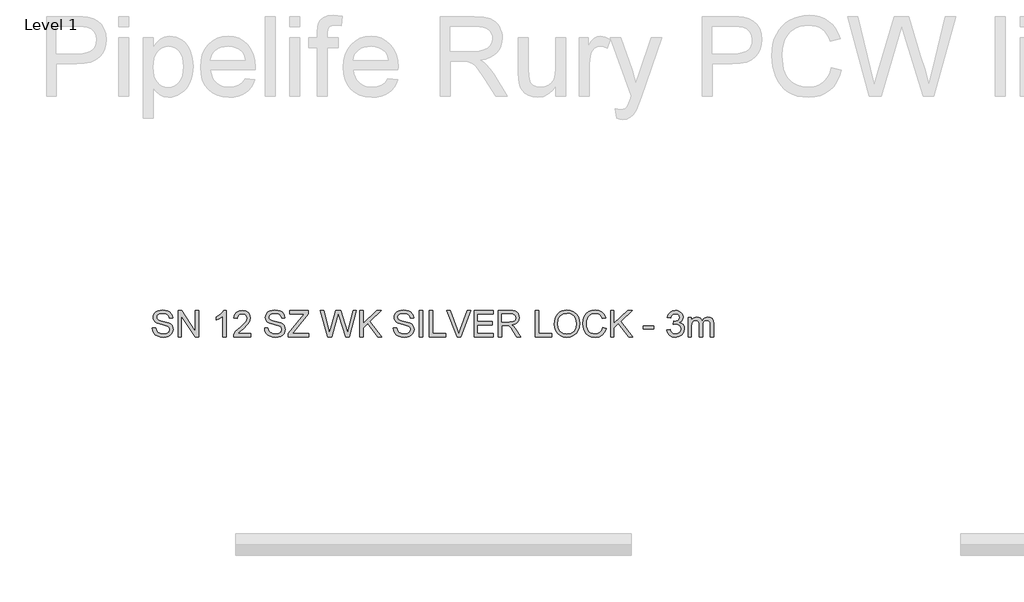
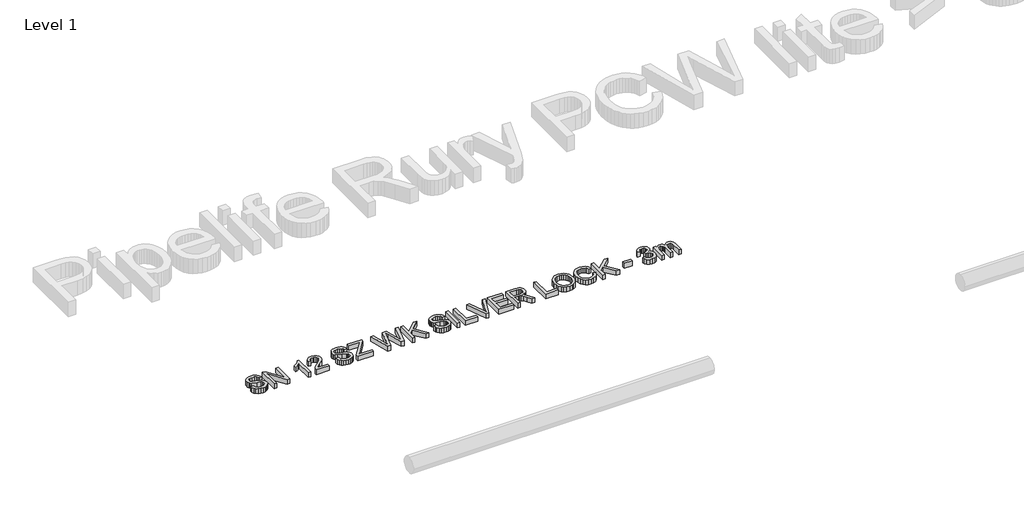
# One storey, part 3 of 8: 1 proxy.
"""IFC4 building model written with IfcOpenShell, lengths in millimetres."""

from ifc_helpers import new_model, si_unit, origin, origin_with_axes, place, context, project, spatial, polyline, outline, extrude, element, save

model = new_model("IFC4")

# Units and contexts
model_context = context("Model", 3, world=origin())
ifc_project = project(units=[si_unit("LENGTHUNIT", "METRE", prefix="MILLI")], contexts=[model_context])

# Site, building, storey
site = spatial("IfcSite", under=ifc_project)
building = spatial("IfcBuilding", under=site)
storey = spatial("IfcBuildingStorey", under=building, Name="Level 1", Elevation=0.0)

# Proxy
placement = place(None, origin())
element("IfcBuildingElementProxy", 1, Name="200mm Arial", ObjectType="200mm Arial", at=placement, inside=storey, context=model_context, shape_type="SweptSolid", body=[
    extrude(outline(polyline([(-16164.2244562, -12468.9871574), (-16139.1103787, -12468.9871574), (-16131.0169748, -12494.1257604), (-16122.8867827, -12503.016242), (-16111.2494489, -12510.0182626), (-16097.0246784, -12514.5616053), (-16081.1321762, -12516.0760528), (-16054.8899272, -12511.4897906), (-16037.94283, -12498.8837009), (-16032.3755491, -12482.0347055), (-16036.5448784, -12466.3629325), (-16042.8969742, -12460.1641209), (-16053.614603, -12454.9585907), (-16090.1820733, -12445.3691333), (-16129.5454468, -12432.9837728), (-16142.0473033, -12424.5347497), (-16150.907128, -12414.2953675), (-16156.1862346, -12402.4863554), (-16157.9459368, -12389.3284427), (-16155.7693017, -12374.6192943), (-16149.2393963, -12360.9034272), (-16138.5278988, -12349.2783562), (-16123.8064877, -12340.8415958), (-16106.1358892, -12335.7096419), (-16086.5768298, -12333.9989907), (-16065.3868268, -12335.7893497), (-16046.8455743, -12341.1604268), (-16031.6152597, -12350.0018575), (-16020.3580706, -12362.203277), (-16013.2334226, -12377.0043959), (-16010.4007313, -12393.6449248), (-16035.5148088, -12393.6449248), (-16040.1255965, -12378.6598649), (-16049.7395793, -12367.8441342), (-16064.7614274, -12361.2958347), (-16085.5958111, -12359.1130682), (-16106.9207041, -12361.2713092), (-16121.5501448, -12367.7460324), (-16130.0114307, -12377.274176), (-16132.8318593, -12388.5926788), (-16130.8330338, -12398.2434498), (-16124.8365573, -12406.0057599), (-16110.6608377, -12412.9464668), (-16083.8299775, -12420.0343266), (-16039.3898325, -12432.6404163), (-16025.0730915, -12441.7516271), (-16015.0850954, -12452.9965534), (-16009.2173775, -12466.2525679), (-16007.2614716, -12481.3970434), (-16009.5116831, -12496.878744), (-16016.2623177, -12511.4407397), (-16027.2374639, -12523.973253), (-16042.1612102, -12533.3665066), (-16060.1077202, -12539.2342244), (-16080.1511576, -12541.1901304), (-16104.7563317, -12539.0809402), (-16125.0082355, -12532.7533699), (-16141.139861, -12522.1828939), (-16153.3842001, -12507.3449868), (-16161.244612, -12489.2697181), (-16164.2244562, -12468.9871574)])), origin_with_axes(), (0.0, 0.0, 1.0), 50.0),
    extrude(outline(polyline([(-15969.5903553, -12538.0508707), (-15969.5903553, -12337.1382504), (-15942.7104442, -12337.1382504), (-15837.7414482, -12496.3085269), (-15837.7414482, -12337.1382504), (-15812.6273707, -12337.1382504), (-15812.6273707, -12538.0508707), (-15839.5072818, -12538.0508707), (-15944.4762778, -12378.8315431), (-15944.4762778, -12538.0508707), (-15969.5903553, -12538.0508707)])), origin_with_axes(), (0.0, 0.0, 1.0), 50.0),
    extrude(outline(polyline([(-15605.436231, -12538.0508707), (-15630.5503085, -12538.0508707), (-15630.5503085, -12381.4802935), (-15654.3400109, -12398.4273908), (-15680.7784636, -12411.1070569), (-15680.7784636, -12387.3664054), (-15643.9657386, -12363.8710087), (-15630.4951262, -12350.2961631), (-15621.6230388, -12337.1382504), (-15605.436231, -12337.1382504), (-15605.436231, -12538.0508707)])), origin_with_axes(), (0.0, 0.0, 1.0), 50.0),
    extrude(outline(polyline([(-15417.0806495, -12512.9367931), (-15417.0806495, -12538.0508707), (-15548.9295565, -12538.0508707), (-15546.2317552, -12520.7358914), (-15530.9769152, -12494.0767095), (-15499.5352673, -12464.9649809), (-15456.1742428, -12423.1245354), (-15448.0440507, -12408.7035612), (-15445.3339867, -12394.6749944), (-15447.8907666, -12382.0995615), (-15455.5611062, -12371.6455815), (-15467.3517241, -12364.6006413), (-15482.269339, -12362.2523279), (-15497.9349806, -12364.545459), (-15510.1057433, -12371.4248523), (-15517.9600239, -12382.3509476), (-15520.6762193, -12396.7841845), (-15545.7902968, -12393.6449248), (-15539.7018498, -12369.3524504), (-15526.5378058, -12351.6082755), (-15506.9848777, -12340.7557566), (-15481.7297788, -12337.1382504), (-15456.2907388, -12341.1604268), (-15436.7745989, -12353.2269563), (-15424.3585816, -12371.253174), (-15420.2199092, -12393.1544155), (-15424.683544, -12416.9686433), (-15439.5214512, -12441.5922115), (-15475.5003103, -12476.0014408), (-15504.3913097, -12500.1590252), (-15515.7220751, -12512.9367931), (-15417.0806495, -12512.9367931)])), origin_with_axes(), (0.0, 0.0, 1.0), 50.0),
    extrude(outline(polyline([(-15313.4850796, -12468.9871574), (-15288.3710021, -12468.9871574), (-15280.2775982, -12494.1257604), (-15272.1474061, -12503.016242), (-15260.5100723, -12510.0182626), (-15246.2853018, -12514.5616053), (-15230.3927996, -12516.0760528), (-15204.1505507, -12511.4897906), (-15187.2034534, -12498.8837009), (-15181.6361726, -12482.0347055), (-15185.8055018, -12466.3629325), (-15192.1575976, -12460.1641209), (-15202.8752264, -12454.9585907), (-15239.4426967, -12445.3691333), (-15278.8060702, -12432.9837728), (-15291.3079267, -12424.5347497), (-15300.1677514, -12414.2953675), (-15305.446858, -12402.4863554), (-15307.2065602, -12389.3284427), (-15305.0299251, -12374.6192943), (-15298.5000197, -12360.9034272), (-15287.7885223, -12349.2783562), (-15273.0671111, -12340.8415958), (-15255.3965126, -12335.7096419), (-15235.8374532, -12333.9989907), (-15214.6474503, -12335.7893497), (-15196.1061977, -12341.1604268), (-15180.8758831, -12350.0018575), (-15169.618694, -12362.203277), (-15162.4940461, -12377.0043959), (-15159.6613547, -12393.6449248), (-15184.7754322, -12393.6449248), (-15189.3862199, -12378.6598649), (-15199.0002027, -12367.8441342), (-15214.0220509, -12361.2958347), (-15234.8564345, -12359.1130682), (-15256.1813275, -12361.2713092), (-15270.8107682, -12367.7460324), (-15279.2720541, -12377.274176), (-15282.0924827, -12388.5926788), (-15280.0936572, -12398.2434498), (-15274.0971807, -12406.0057599), (-15259.9214611, -12412.9464668), (-15233.0906009, -12420.0343266), (-15188.6504559, -12432.6404163), (-15174.3337149, -12441.7516271), (-15164.3457188, -12452.9965534), (-15158.478001, -12466.2525679), (-15156.522095, -12481.3970434), (-15158.7723066, -12496.878744), (-15165.5229412, -12511.4407397), (-15176.4980874, -12523.973253), (-15191.4218336, -12533.3665066), (-15209.3683436, -12539.2342244), (-15229.411781, -12541.1901304), (-15254.0169551, -12539.0809402), (-15274.2688589, -12532.7533699), (-15290.4004844, -12522.1828939), (-15302.6448235, -12507.3449868), (-15310.5052355, -12489.2697181), (-15313.4850796, -12468.9871574)])), origin_with_axes(), (0.0, 0.0, 1.0), 50.0),
    extrude(outline(polyline([(-15134.5472772, -12538.0508707), (-15134.5472772, -12512.0048254), (-15031.7855732, -12386.189183), (-15012.263302, -12362.2523279), (-15121.9902384, -12362.2523279), (-15121.9902384, -12337.1382504), (-14980.7235523, -12337.1382504), (-14980.7235523, -12362.2523279), (-15093.1973409, -12499.938296), (-15103.7923424, -12512.9367931), (-14977.5842926, -12512.9367931), (-14977.5842926, -12538.0508707), (-15134.5472772, -12538.0508707)])), origin_with_axes(), (0.0, 0.0, 1.0), 50.0),
    extrude(outline(polyline([(-14834.8951294, -12538.0508707), (-14889.6850212, -12337.1382504), (-14863.7861287, -12337.1382504), (-14832.0011243, -12469.1833612), (-14822.1909378, -12509.9446862), (-14811.6940382, -12473.8922507), (-14771.8646809, -12337.1382504), (-14734.5369211, -12337.1382504), (-14705.5968708, -12436.2701853), (-14684.0635113, -12509.9446862), (-14674.5476304, -12470.3605835), (-14642.4683204, -12337.1382504), (-14616.569428, -12337.1382504), (-14671.4083707, -12538.0508707), (-14698.2392309, -12538.0508707), (-14746.4072468, -12383.0499234), (-14753.1272246, -12361.418462), (-14760.6810682, -12387.4645073), (-14804.581653, -12538.0508707), (-14834.8951294, -12538.0508707)])), origin_with_axes(), (0.0, 0.0, 1.0), 50.0),
    extrude(outline(polyline([(-14591.4553504, -12538.0508707), (-14591.4553504, -12337.1382504), (-14566.3412729, -12337.1382504), (-14566.3412729, -12435.4853704), (-14463.3343142, -12337.1382504), (-14428.2138464, -12337.1382504), (-14514.6906408, -12419.740021), (-14425.0745867, -12538.0508707), (-14455.7804706, -12538.0508707), (-14532.4961293, -12436.7116437), (-14566.3412729, -12468.9871574), (-14566.3412729, -12538.0508707), (-14591.4553504, -12538.0508707)])), origin_with_axes(), (0.0, 0.0, 1.0), 50.0),
    extrude(outline(polyline([(-14337.1753154, -12468.9871574), (-14312.0612378, -12468.9871574), (-14303.9678339, -12494.1257604), (-14295.8376418, -12503.016242), (-14284.2003081, -12510.0182626), (-14269.9755376, -12514.5616053), (-14254.0830354, -12516.0760528), (-14227.8407864, -12511.4897906), (-14210.8936891, -12498.8837009), (-14205.3264083, -12482.0347055), (-14209.4957376, -12466.3629325), (-14215.8478333, -12460.1641209), (-14226.5654621, -12454.9585907), (-14263.1329325, -12445.3691333), (-14302.4963059, -12432.9837728), (-14314.9981624, -12424.5347497), (-14323.8579871, -12414.2953675), (-14329.1370938, -12402.4863554), (-14330.896796, -12389.3284427), (-14328.7201608, -12374.6192943), (-14322.1902554, -12360.9034272), (-14311.478758, -12349.2783562), (-14296.7573468, -12340.8415958), (-14279.0867483, -12335.7096419), (-14259.5276889, -12333.9989907), (-14238.337686, -12335.7893497), (-14219.7964334, -12341.1604268), (-14204.5661188, -12350.0018575), (-14193.3089298, -12362.203277), (-14186.1842818, -12377.0043959), (-14183.3515904, -12393.6449248), (-14208.465668, -12393.6449248), (-14213.0764557, -12378.6598649), (-14222.6904385, -12367.8441342), (-14237.7122866, -12361.2958347), (-14258.5466703, -12359.1130682), (-14279.8715632, -12361.2713092), (-14294.5010039, -12367.7460324), (-14302.9622898, -12377.274176), (-14305.7827184, -12388.5926788), (-14303.7838929, -12398.2434498), (-14297.7874164, -12406.0057599), (-14283.6116969, -12412.9464668), (-14256.7808367, -12420.0343266), (-14212.3406917, -12432.6404163), (-14198.0239507, -12441.7516271), (-14188.0359545, -12452.9965534), (-14182.1682367, -12466.2525679), (-14180.2123307, -12481.3970434), (-14182.4625423, -12496.878744), (-14189.2131769, -12511.4407397), (-14200.1883231, -12523.973253), (-14215.1120694, -12533.3665066), (-14233.0585794, -12539.2342244), (-14253.1020167, -12541.1901304), (-14277.7071908, -12539.0809402), (-14297.9590947, -12532.7533699), (-14314.0907202, -12522.1828939), (-14326.3350592, -12507.3449868), (-14334.1954712, -12489.2697181), (-14337.1753154, -12468.9871574)])), origin_with_axes(), (0.0, 0.0, 1.0), 50.0),
    extrude(outline(polyline([(-14139.4019547, -12538.0508707), (-14139.4019547, -12337.1382504), (-14114.2878772, -12337.1382504), (-14114.2878772, -12538.0508707), (-14139.4019547, -12538.0508707)])), origin_with_axes(), (0.0, 0.0, 1.0), 50.0),
    extrude(outline(polyline([(-14064.0597221, -12538.0508707), (-14064.0597221, -12337.1382504), (-14038.9456446, -12337.1382504), (-14038.9456446, -12512.9367931), (-13938.4893345, -12512.9367931), (-13938.4893345, -12538.0508707), (-14064.0597221, -12538.0508707)])), origin_with_axes(), (0.0, 0.0, 1.0), 50.0),
    extrude(outline(polyline([(-13850.8843687, -12538.0508707), (-13930.837389, -12337.1382504), (-13903.9574778, -12337.1382504), (-13850.4429103, -12481.8875527), (-13839.6026541, -12514.506423), (-13828.9095508, -12481.8875527), (-13775.2478305, -12337.1382504), (-13748.3679193, -12337.1382504), (-13824.9364253, -12538.0508707), (-13850.8843687, -12538.0508707)])), origin_with_axes(), (0.0, 0.0, 1.0), 50.0),
    extrude(outline(polyline([(-13725.0196754, -12538.0508707), (-13725.0196754, -12337.1382504), (-13580.6137295, -12337.1382504), (-13580.6137295, -12362.2523279), (-13699.9055978, -12362.2523279), (-13699.9055978, -12421.898262), (-13586.8922489, -12421.898262), (-13586.8922489, -12447.0123396), (-13699.9055978, -12447.0123396), (-13699.9055978, -12512.9367931), (-13577.4744699, -12512.9367931), (-13577.4744699, -12538.0508707), (-13725.0196754, -12538.0508707)])), origin_with_axes(), (0.0, 0.0, 1.0), 50.0),
    extrude(outline(polyline([(-13539.8033535, -12538.0508707), (-13539.8033535, -12337.1382504), (-13453.2284573, -12337.1382504), (-13429.9599212, -12338.4932824), (-13413.031218, -12342.5583784), (-13400.6581202, -12350.0631711), (-13391.0564002, -12361.7372931), (-13384.8943767, -12376.2134496), (-13382.8403689, -12392.1243459), (-13386.2432774, -12411.9163972), (-13396.4520028, -12428.3239342), (-13413.7731134, -12440.3536755), (-13438.5131775, -12447.0123396), (-13424.2393561, -12457.7544938), (-13403.8832191, -12483.6043354), (-13370.381432, -12538.0508707), (-13399.566737, -12538.0508707), (-13425.7108841, -12496.4066288), (-13444.5954932, -12468.8400046), (-13457.8637705, -12455.816982), (-13469.8076726, -12451.0345161), (-13484.3757996, -12450.1515993), (-13514.689276, -12450.1515993), (-13514.689276, -12538.0508707), (-13539.8033535, -12538.0508707)]), holes=[polyline([(-13514.689276, -12425.0375217), (-13458.4769071, -12425.0375217), (-13429.806637, -12421.4813291), (-13420.3765952, -12416.8582787), (-13413.5217273, -12410.1015127), (-13407.9544465, -12393.0563136), (-13410.6093282, -12380.8058432), (-13418.5739734, -12370.934343), (-13432.2775777, -12364.4228317), (-13452.1493368, -12362.2523279), (-13514.689276, -12362.2523279), (-13514.689276, -12425.0375217)])]), origin_with_axes(), (0.0, 0.0, 1.0), 50.0),
    extrude(outline(polyline([(-13260.4092409, -12538.0508707), (-13260.4092409, -12337.1382504), (-13235.2951634, -12337.1382504), (-13235.2951634, -12512.9367931), (-13134.8388533, -12512.9367931), (-13134.8388533, -12538.0508707), (-13260.4092409, -12538.0508707)])), origin_with_axes(), (0.0, 0.0, 1.0), 50.0),
    extrude(outline(polyline([(-13116.0032951, -12440.2433109), (-13114.329432, -12416.6774034), (-13109.3078428, -12395.8154286), (-13100.9385274, -12377.6573864), (-13089.2214859, -12362.203277), (-13074.8587596, -12349.8639017), (-13058.5523902, -12341.0500622), (-13040.3023775, -12335.7617586), (-13020.1087217, -12333.9989907), (-12993.7561081, -12337.3099286), (-12970.1258213, -12347.2427425), (-12950.5054482, -12363.0984565), (-12936.1825759, -12384.1780948), (-12927.4269844, -12409.4638506), (-12924.5084539, -12437.937917), (-12927.5802685, -12466.7921282), (-12936.7957125, -12492.4335033), (-12951.6458824, -12513.5499298), (-12971.6218747, -12528.8292953), (-12995.0498265, -12538.0999216), (-13020.2558745, -12541.1901304), (-13047.0131583, -12537.7749592), (-13070.7783352, -12527.5294456), (-13090.3496573, -12511.379426), (-13104.5253769, -12490.2507368), (-13113.1338155, -12465.9398682), (-13116.0032951, -12440.2433109)]), holes=[polyline([(-13090.8892176, -12440.4885655), (-13085.8676283, -12471.9179507), (-13070.8028606, -12495.8670685), (-13048.1597238, -12511.0238067), (-13020.4030273, -12516.0760528), (-12992.2416606, -12510.9747558), (-12969.5617356, -12495.6708648), (-12960.8383337, -12484.3983473), (-12954.6073325, -12470.9859829), (-12949.6225314, -12437.7417133), (-12951.756247, -12415.5093781), (-12958.1573937, -12396.2936752), (-12968.6604247, -12380.5789826), (-12983.099793, -12368.8496783), (-13000.5190054, -12361.5472207), (-13019.9615689, -12359.1130682), (-13046.9763701, -12363.8035636), (-13069.9444693, -12377.87505), (-13079.1077967, -12388.8241378), (-13085.6530305, -12402.9094197), (-13090.8892176, -12440.4885655)])]), origin_with_axes(), (0.0, 0.0, 1.0), 50.0),
    extrude(outline(polyline([(-12748.7099111, -12466.6327127), (-12723.5958336, -12473.1074358), (-12735.1841164, -12502.3724485), (-12753.3697497, -12523.7525238), (-12777.2575539, -12536.8307287), (-12805.9523496, -12541.1901304), (-12835.0824722, -12537.8914551), (-12858.2161183, -12527.9954295), (-12875.9480305, -12511.8454099), (-12888.8729513, -12489.7847529), (-12896.7640201, -12463.8490722), (-12899.3943763, -12436.0739816), (-12896.4206635, -12406.778312), (-12887.4995252, -12381.4802935), (-12873.0969451, -12360.983135), (-12853.6789071, -12346.0900456), (-12830.6494942, -12337.0217544), (-12805.4127893, -12333.9989907), (-12777.876822, -12337.9108025), (-12755.1110578, -12349.6462382), (-12737.8267354, -12368.4817963), (-12726.7350933, -12393.6939758), (-12751.8491708, -12399.6781895), (-12760.5557114, -12381.3637975), (-12772.4505625, -12368.8006274), (-12787.6808771, -12361.534958), (-12806.393808, -12359.1130682), (-12827.9639556, -12361.7986068), (-12845.683605, -12369.8552225), (-12859.129692, -12382.4367867), (-12867.8791521, -12398.6971709), (-12872.6800121, -12417.0790079), (-12874.2802988, -12436.0249307), (-12872.3857065, -12459.2260218), (-12866.7019297, -12479.2878533), (-12857.0143705, -12495.4440043), (-12843.1084311, -12506.9280539), (-12826.4372453, -12513.7890531), (-12808.4539471, -12516.0760528), (-12787.4908048, -12512.9613186), (-12770.0225414, -12503.6171159), (-12756.8339718, -12488.1415466), (-12748.7099111, -12466.6327127)])), origin_with_axes(), (0.0, 0.0, 1.0), 50.0),
    extrude(outline(polyline([(-12689.063977, -12538.0508707), (-12689.063977, -12337.1382504), (-12663.9498994, -12337.1382504), (-12663.9498994, -12435.4853704), (-12560.9429408, -12337.1382504), (-12525.822473, -12337.1382504), (-12612.2992673, -12419.740021), (-12522.6832133, -12538.0508707), (-12553.3890971, -12538.0508707), (-12630.1047559, -12436.7116437), (-12663.9498994, -12468.9871574), (-12663.9498994, -12538.0508707), (-12689.063977, -12538.0508707)])), origin_with_axes(), (0.0, 0.0, 1.0), 50.0),
    extrude(outline(polyline([(-12441.0624613, -12478.4049365), (-12441.0624613, -12453.290859), (-12362.580969, -12453.290859), (-12362.580969, -12478.4049365), (-12441.0624613, -12478.4049365)])), origin_with_axes(), (0.0, 0.0, 1.0), 50.0),
    extrude(outline(polyline([(-12262.1246588, -12484.6834559), (-12237.0105813, -12481.5441962), (-12231.3881181, -12497.3263338), (-12223.1536928, -12507.9826489), (-12211.9026351, -12514.0527018), (-12197.2302749, -12516.0760528), (-12180.0133975, -12513.2924124), (-12166.7205947, -12504.9414911), (-12158.2225207, -12492.4825542), (-12155.3898293, -12477.3748669), (-12158.1979952, -12463.0336005), (-12166.6224929, -12451.4023981), (-12179.3757354, -12443.6952703), (-12195.1701357, -12441.1262277), (-12212.7794205, -12443.8730799), (-12209.9835174, -12418.7590024), (-12205.9613409, -12419.053308), (-12190.9149673, -12417.2506862), (-12177.462749, -12411.8428208), (-12167.9713935, -12402.6948219), (-12164.8076084, -12389.6717993), (-12167.1007395, -12378.8254118), (-12173.9801328, -12370.0269007), (-12184.4770324, -12364.1959711), (-12197.6226823, -12362.2523279), (-12210.7928578, -12364.2143652), (-12221.5595375, -12370.1004771), (-12229.4199495, -12379.9106637), (-12233.8713216, -12393.6449248), (-12258.9853991, -12390.5056651), (-12251.590971, -12367.9544988), (-12238.4330583, -12351.1177662), (-12220.431366, -12340.6331293), (-12198.5055991, -12337.1382504), (-12182.7173302, -12338.8611644), (-12168.2166482, -12344.0299064), (-12155.9907032, -12352.184624), (-12147.0266453, -12362.8654646), (-12141.5268094, -12375.1711173), (-12139.6935308, -12388.2002713), (-12141.4348389, -12400.3403771), (-12146.6587633, -12411.3523115), (-12155.2917274, -12420.7333024), (-12167.260155, -12427.9805777), (-12151.5393311, -12434.3326735), (-12139.8897346, -12445.1484041), (-12132.6792475, -12459.8391585), (-12130.2757518, -12477.8163253), (-12135.0827432, -12502.2927407), (-12149.5037174, -12522.7469797), (-12171.2700688, -12536.5793427), (-12198.1131917, -12541.1901304), (-12222.3934034, -12537.253793), (-12242.1609292, -12525.444781), (-12255.9074531, -12507.381775), (-12262.1246588, -12484.6834559)])), origin_with_axes(), (0.0, 0.0, 1.0), 50.0),
    extrude(outline(polyline([(-12102.0224145, -12538.0508707), (-12102.0224145, -12390.5056651), (-12076.908337, -12390.5056651), (-12076.908337, -12414.7858768), (-12069.3544934, -12403.632921), (-12059.6424087, -12394.8957236), (-12048.1031768, -12389.248735), (-12035.0678914, -12387.3664054), (-12021.1006383, -12389.2855232), (-12009.9047629, -12395.0428764), (-12001.5415789, -12404.2583204), (-11996.0723999, -12416.5517104), (-11986.9182696, -12403.7831395), (-11976.4765523, -12394.6627317), (-11964.747248, -12389.190487), (-11951.7303568, -12387.3664054), (-11932.851879, -12390.4014319), (-11918.8907573, -12399.5065113), (-11910.2639245, -12414.9268982), (-11907.3883136, -12436.9078475), (-11907.3883136, -12538.0508707), (-11932.5023912, -12538.0508707), (-11932.5023912, -12447.6990526), (-11934.8323105, -12426.7297789), (-11943.2690709, -12416.4045576), (-11957.6164687, -12412.480483), (-11971.2219711, -12414.9943433), (-11982.3136133, -12422.5359242), (-11989.6896473, -12435.6202605), (-11992.1483253, -12454.762387), (-11992.1483253, -12538.0508707), (-12017.2624028, -12538.0508707), (-12017.2624028, -12444.9031495), (-12018.7155367, -12430.7029045), (-12023.0749384, -12420.5738869), (-12030.745278, -12414.5038339), (-12042.1312257, -12412.480483), (-12060.7215292, -12417.8760856), (-12068.0791691, -12424.5224869), (-12073.0823642, -12433.6704859), (-12076.908337, -12463.6406058), (-12076.908337, -12538.0508707), (-12102.0224145, -12538.0508707)])), origin_with_axes(), (0.0, 0.0, 1.0), 50.0),
])

save(model, "model.ifc")
